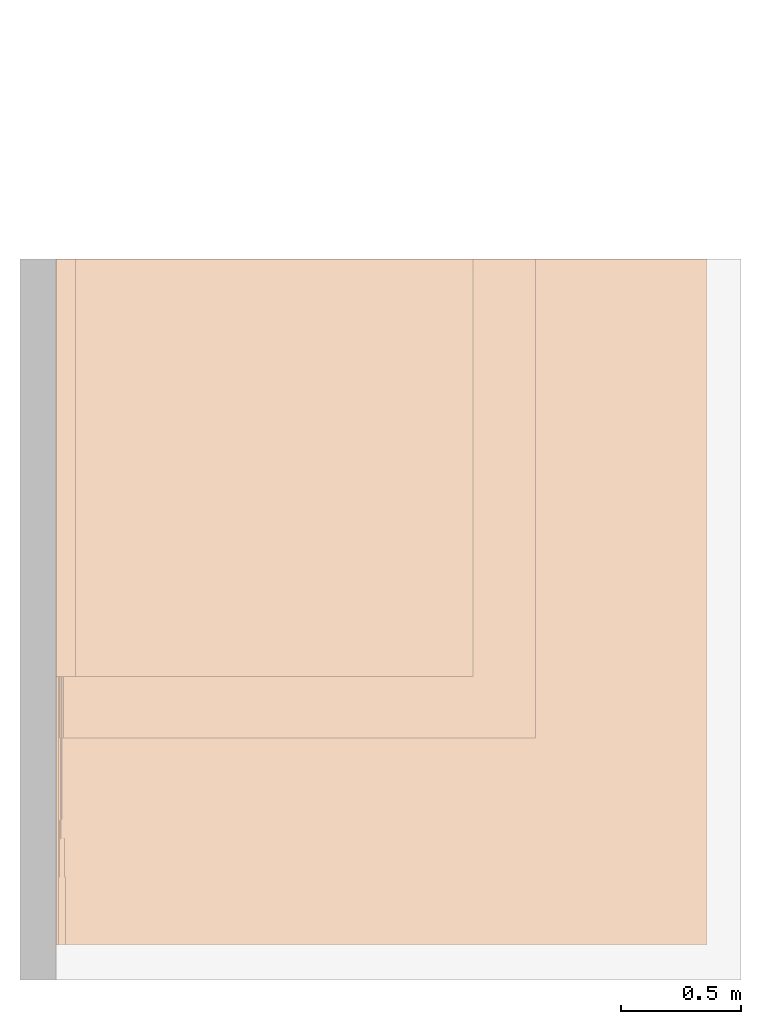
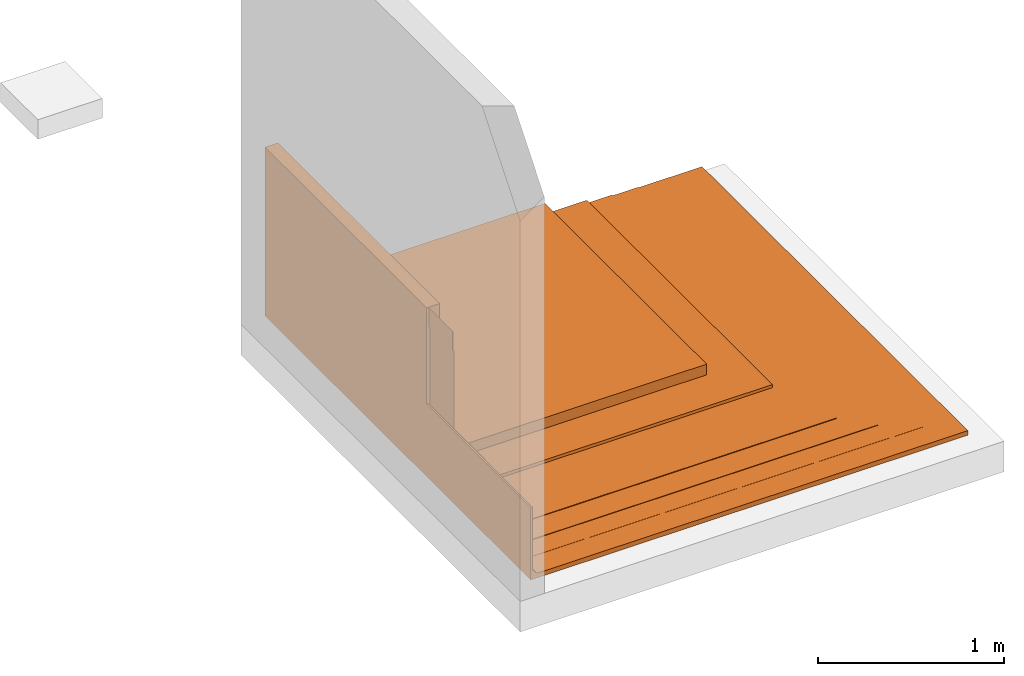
# One storey, part 2 of 2: 1 proxy.
"""IFC2X3 building model written with IfcOpenShell, lengths in metres."""

from ifc_helpers import new_model, entity, si_unit, converted_unit, derived_unit, direction, frame, frame_2d, origin, origin_2d_with_axis, place, context, subcontext, project, spatial, polyline, circle_curve, parameter, trimmed, segment, composite_curve, rectangle, outline, extrude, source, transform, mapped, material, material_list, type_object, type_shapes, element, save


model = new_model("IFC2X3")

# Units and contexts
model_context = context("Model", 3, precision=1e-05, world=origin(), true_north=direction((6.123031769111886e-17, 1.0)))
body_context = subcontext(model_context, "Body", "Model", "MODEL_VIEW")
ifc_project = project(units=[si_unit("LENGTHUNIT", "METRE"), si_unit("AREAUNIT", "SQUARE_METRE"), si_unit("VOLUMEUNIT", "CUBIC_METRE"), converted_unit("PLANEANGLEUNIT", "DEGREE", entity("IfcRatioMeasure", 0.017453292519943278), si_unit("PLANEANGLEUNIT", "RADIAN"), dimensions=[0, 0, 0, 0, 0, 0, 0]), si_unit("MASSUNIT", "GRAM", prefix="KILO"), derived_unit("MASSDENSITYUNIT", [(si_unit("MASSUNIT", "GRAM", prefix="KILO"), 1), (si_unit("LENGTHUNIT", "METRE"), -3)]), derived_unit("IONCONCENTRATIONUNIT", [(si_unit("MASSUNIT", "GRAM", prefix="KILO"), 1), (si_unit("LENGTHUNIT", "METRE"), -3)]), derived_unit("MOMENTOFINERTIAUNIT", [(si_unit("LENGTHUNIT", "METRE"), 4)]), si_unit("TIMEUNIT", "SECOND"), si_unit("FREQUENCYUNIT", "HERTZ"), si_unit("THERMODYNAMICTEMPERATUREUNIT", "DEGREE_CELSIUS"), derived_unit("THERMALTRANSMITTANCEUNIT", [(si_unit("MASSUNIT", "GRAM", prefix="KILO"), 1), (si_unit("THERMODYNAMICTEMPERATUREUNIT", "KELVIN"), -1), (si_unit("TIMEUNIT", "SECOND"), -3)]), derived_unit("THERMALCONDUCTANCEUNIT", [(si_unit("MASSUNIT", "GRAM", prefix="KILO"), 1), (si_unit("THERMODYNAMICTEMPERATUREUNIT", "KELVIN"), -1), (si_unit("TIMEUNIT", "SECOND"), -3), (si_unit("LENGTHUNIT", "METRE"), 1)]), derived_unit("VOLUMETRICFLOWRATEUNIT", [(si_unit("LENGTHUNIT", "METRE"), 3), (si_unit("TIMEUNIT", "SECOND"), -1)]), derived_unit("MASSFLOWRATEUNIT", [(si_unit("MASSUNIT", "GRAM", prefix="KILO"), 1), (si_unit("TIMEUNIT", "SECOND"), -1)]), derived_unit("ROTATIONALFREQUENCYUNIT", [(si_unit("TIMEUNIT", "SECOND"), -1)]), si_unit("ELECTRICCURRENTUNIT", "AMPERE"), si_unit("ELECTRICVOLTAGEUNIT", "VOLT"), si_unit("POWERUNIT", "WATT"), si_unit("FORCEUNIT", "NEWTON", prefix="KILO"), si_unit("ILLUMINANCEUNIT", "LUX"), si_unit("LUMINOUSFLUXUNIT", "LUMEN"), si_unit("LUMINOUSINTENSITYUNIT", "CANDELA"), derived_unit("USERDEFINED", [(si_unit("MASSUNIT", "GRAM", prefix="KILO"), -1), (si_unit("LENGTHUNIT", "METRE"), -2), (si_unit("TIMEUNIT", "SECOND"), 3), (si_unit("LUMINOUSFLUXUNIT", "LUMEN"), 1)]), derived_unit("USERDEFINED", [(si_unit("MASSUNIT", "GRAM", prefix="KILO"), 1), (si_unit("TIMEUNIT", "SECOND"), -3), (si_unit("LENGTHUNIT", "METRE"), 3), (si_unit("ELECTRICCURRENTUNIT", "AMPERE"), -2)]), derived_unit("SOUNDPOWERUNIT", [(si_unit("MASSUNIT", "GRAM", prefix="KILO"), 1), (si_unit("TIMEUNIT", "SECOND"), -3), (si_unit("LENGTHUNIT", "METRE"), 2)]), derived_unit("SOUNDPRESSUREUNIT", [(si_unit("MASSUNIT", "GRAM", prefix="KILO"), 1), (si_unit("LENGTHUNIT", "METRE"), -1), (si_unit("TIMEUNIT", "SECOND"), -2)]), derived_unit("LINEARVELOCITYUNIT", [(si_unit("LENGTHUNIT", "METRE"), 1), (si_unit("TIMEUNIT", "SECOND"), -1)]), si_unit("PRESSUREUNIT", "PASCAL"), derived_unit("USERDEFINED", [(si_unit("MASSUNIT", "GRAM", prefix="KILO"), 1), (si_unit("LENGTHUNIT", "METRE"), -2), (si_unit("TIMEUNIT", "SECOND"), -2)]), derived_unit("LINEARFORCEUNIT", [(si_unit("MASSUNIT", "GRAM", prefix="KILO"), 1), (si_unit("TIMEUNIT", "SECOND"), -2)]), derived_unit("PLANARFORCEUNIT", [(si_unit("MASSUNIT", "GRAM", prefix="KILO"), 1), (si_unit("LENGTHUNIT", "METRE"), -1), (si_unit("TIMEUNIT", "SECOND"), -2)]), derived_unit("SPECIFICHEATCAPACITYUNIT", [(si_unit("THERMODYNAMICTEMPERATUREUNIT", "KELVIN"), -1), (si_unit("LENGTHUNIT", "METRE"), 2), (si_unit("TIMEUNIT", "SECOND"), -2)]), derived_unit("HEATINGVALUEUNIT", [(si_unit("LENGTHUNIT", "METRE"), 2), (si_unit("TIMEUNIT", "SECOND"), -2)]), derived_unit("VAPORPERMEABILITYUNIT", [(si_unit("LENGTHUNIT", "METRE"), -1), (si_unit("TIMEUNIT", "SECOND"), 1)]), derived_unit("DYNAMICVISCOSITYUNIT", [(si_unit("MASSUNIT", "GRAM", prefix="KILO"), 1), (si_unit("TIMEUNIT", "SECOND"), -1), (si_unit("LENGTHUNIT", "METRE"), -1)]), derived_unit("THERMALEXPANSIONCOEFFICIENTUNIT", [(si_unit("THERMODYNAMICTEMPERATUREUNIT", "KELVIN"), -1)]), derived_unit("MODULUSOFELASTICITYUNIT", [(si_unit("MASSUNIT", "GRAM", prefix="KILO"), 1), (si_unit("LENGTHUNIT", "METRE"), -1), (si_unit("TIMEUNIT", "SECOND"), -2)]), derived_unit("ISOTHERMALMOISTURECAPACITYUNIT", [(si_unit("LENGTHUNIT", "METRE"), 3), (si_unit("MASSUNIT", "GRAM", prefix="KILO"), -1)]), derived_unit("MOISTUREDIFFUSIVITYUNIT", [(si_unit("TIMEUNIT", "SECOND"), -1), (si_unit("LENGTHUNIT", "METRE"), 2)])], contexts=[model_context])

# Site, building, storey
site_placement = place(None, origin())
site = spatial("IfcSite", under=ifc_project, at=site_placement, Name="Default", CompositionType="ELEMENT")
building_placement = place(site_placement, origin())
building = spatial("IfcBuilding", under=site, at=building_placement, CompositionType="ELEMENT")
storey_placement = place(building_placement, frame((0.0, 0.0, -0.0025237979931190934)))
storey = spatial("IfcBuildingStorey", under=building, at=storey_placement, Name="ARQ Térreo", CompositionType="ELEMENT", Elevation=-0.0025237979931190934)

# Proxy
ifc_material_1 = material(Name="#argamassa")
ifc_material_2 = material(Name="#selante")
ifc_material_3 = material(Name="#proteção mecânica")
ifc_material_4 = material(Name="#camada amortecedora")
ifc_material_5 = material(Name="#Viapoxi Adesivo")
ifc_material_6 = material(Name="#Tela Plástica")
ifc_material_7 = material(Name="# Torodin 4mm - TIPO III - Classe A")
ifc_material_8 = material(Name="#Primer Adeflex")
ifc_material_9 = material(Name="# Torodin 3mm - TIPO III - Classe A")
ifc_material_list = material_list([ifc_material_1, ifc_material_2, ifc_material_3, ifc_material_4, ifc_material_5, ifc_material_6, ifc_material_7, ifc_material_8, ifc_material_9])
building_element_proxy_type = type_object("IfcBuildingElementProxyType", Name="IMPER:IMPER", PredefinedType="NOTDEFINED", material=ifc_material_list)
shared_shape = source(origin(), body_context, "Body", "SweptSolid", [
    extrude(rectangle(XDim=2.854111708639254, YDim=0.010000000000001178, at=frame_2d((0.0, -3.382710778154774e-17), x_axis=(1.0, 0.0))), frame((-0.3469704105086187, -1.2811858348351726, -0.0025237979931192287), z_axis=(0.0, 0.0, 1.0), x_axis=(0.0, -1.0, 0.0)), (0.0, 0.0, 1.0), 0.4752746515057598),
    extrude(rectangle(XDim=1.7372680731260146, YDim=0.020000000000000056, at=origin_2d_with_axis()), frame((-0.2619704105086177, -0.7227640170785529, 0.10730187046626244), z_axis=(0.0, 0.0, 1.0), x_axis=(0.0, -1.0, 0.0)), (0.0, 0.0, 1.0), 0.019999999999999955),
    extrude(outline(composite_curve([segment(polyline([(0.21586995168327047, -1.5093352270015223), (0.28586995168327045, -1.5093352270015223)]), True, "CONTINUOUS"), segment(polyline([(0.28586995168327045, -1.5093352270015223), (0.2858699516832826, 0.2018647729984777)]), True, "CONTINUOUS"), segment(polyline([(0.2858699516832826, 0.2018647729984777), (0.18082209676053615, 0.2018647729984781)]), True, "CONTINUOUS"), segment(trimmed(circle_curve(frame_2d((0.18082209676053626, 0.21161777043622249), x_axis=(0.0, -1.0)), 0.009752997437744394), [parameter(300.520300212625)], [parameter(0.0)], True, "PARAMETER"), False, "CONTINUOUS"), segment(polyline([(0.1724203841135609, 0.20666477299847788), (0.04569562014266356, 0.20666477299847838)]), True, "CONTINUOUS"), segment(trimmed(circle_curve(frame_2d((0.04569562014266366, 0.21641777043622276), x_axis=(0.0, -1.0)), 0.009752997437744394), [parameter(300.5203002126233)], [parameter(0.0)], True, "PARAMETER"), False, "CONTINUOUS"), segment(polyline([(0.03729390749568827, 0.21146477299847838), (-0.1123558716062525, 0.21146477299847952)]), True, "CONTINUOUS"), segment(polyline([(-0.1123558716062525, 0.21146477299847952), (-0.11235587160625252, 0.2084365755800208)]), True, "CONTINUOUS"), segment(polyline([(-0.11235587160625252, 0.2084365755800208), (-0.12153952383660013, 0.20843657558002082)]), True, "CONTINUOUS"), segment(polyline([(-0.12153952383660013, 0.20843657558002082), (-0.12957903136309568, 0.21647608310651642)]), True, "CONTINUOUS"), segment(polyline([(-0.12957903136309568, 0.21647608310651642), (-0.12957903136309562, 0.22647608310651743)]), True, "CONTINUOUS"), segment(polyline([(-0.12957903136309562, 0.22647608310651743), (-0.760956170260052, 0.22647608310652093)]), True, "CONTINUOUS"), segment(polyline([(-0.760956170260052, 0.22647608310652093), (-0.7609561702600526, 0.1464760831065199)]), True, "CONTINUOUS"), segment(polyline([(-0.7609561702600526, 0.1464760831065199), (0.2158699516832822, 0.14647608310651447)]), True, "CONTINUOUS"), segment(polyline([(0.2158699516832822, 0.14647608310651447), (0.23586995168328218, 0.1464760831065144)]), True, "CONTINUOUS"), segment(polyline([(0.23586995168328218, 0.1464760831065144), (0.23586995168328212, 0.12647608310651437)]), True, "CONTINUOUS"), segment(polyline([(0.23586995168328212, 0.12647608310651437), (0.21586995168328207, 0.12647608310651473)]), True, "CONTINUOUS"), segment(polyline([(0.21586995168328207, 0.12647608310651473), (0.21586995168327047, -1.5093352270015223)]), True, "CONTINUOUS")], self_intersect=False)), frame((-0.12549432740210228, -1.5913980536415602, 0.34317182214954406), z_axis=(0.0, 1.0, 0.0), x_axis=(0.0, 0.0, -1.0)), (0.0, 0.0, 1.0), 1.7372680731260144),
    extrude(outline(composite_curve([segment(polyline([(-0.011733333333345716, -1.2609592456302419), (0.00826666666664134, -1.2609592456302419)]), True, "CONTINUOUS"), segment(polyline([(0.00826666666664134, -1.2609592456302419), (0.008266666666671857, 0.5588520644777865)]), True, "CONTINUOUS"), segment(polyline([(0.008266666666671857, 0.5588520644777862), (0.003466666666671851, 0.5588520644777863)]), True, "CONTINUOUS"), segment(polyline([(0.003466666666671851, 0.5588520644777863), (0.0034666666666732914, 0.6939632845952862)]), True, "CONTINUOUS"), segment(trimmed(circle_curve(frame_2d((-0.011907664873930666, 0.6948520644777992), x_axis=(0.0, -1.0)), 0.015399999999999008), [parameter(86.69145144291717)], [parameter(179.3513847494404)], True, "PARAMETER"), True, "CONTINUOUS"), segment(polyline([(-0.011733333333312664, 0.7102510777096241), (-0.011733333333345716, -1.2609592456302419)]), True, "CONTINUOUS")], self_intersect=False)), frame((0.38288165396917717, -1.8470207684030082, 0.04556853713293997), z_axis=(0.0, 1.0, 0.0), x_axis=(0.0, 0.0, -1.0)), (0.0, 0.0, 1.0), 1.9928907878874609),
    extrude(outline(polyline([(-0.0008824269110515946, 5.2421376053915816e-05), (0.006204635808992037, 5.24213760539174e-05), (0.009908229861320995, 0.003756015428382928), (-0.0014613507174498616, 0.0037560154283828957), (-0.007955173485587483, -0.002737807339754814), (-0.005813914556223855, -0.004879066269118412), (-0.0008824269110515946, 5.2421376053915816e-05)])), frame((-0.33762013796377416, -2.191126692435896, 0.4630887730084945), z_axis=(0.0, 1.0, 0.0), x_axis=(-0.7071067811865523, 0.0, 0.7071067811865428)), (0.0, 0.0, 1.0), 2.3369967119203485),
    extrude(outline(composite_curve([segment(polyline([(0.00721894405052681, -0.3428229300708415), (0.00721894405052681, -0.44828655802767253)]), True, "CONTINUOUS"), segment(polyline([(0.00721894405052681, -0.44828655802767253), (0.008018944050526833, -0.44828655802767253)]), True, "CONTINUOUS"), segment(polyline([(0.008018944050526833, -0.44828655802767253), (0.008018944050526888, -0.3428229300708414)]), True, "CONTINUOUS"), segment(trimmed(circle_curve(frame_2d((-0.007534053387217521, -0.3428229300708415), x_axis=(1.0, 0.0)), 0.015552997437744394), [parameter(3.5622212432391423e-13)], [parameter(46.2607256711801)], True, "PARAMETER"), True, "CONTINUOUS"), segment(polyline([(0.003218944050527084, -0.33158599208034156), (0.0032189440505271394, -0.20769645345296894)]), True, "CONTINUOUS"), segment(trimmed(circle_curve(frame_2d((-0.01233405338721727, -0.2076964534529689), x_axis=(1.0, 0.0)), 0.015552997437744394), [parameter(359.9999999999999)], [parameter(46.26072567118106)], True, "PARAMETER"), True, "CONTINUOUS"), segment(polyline([(-0.001581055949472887, -0.19645951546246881), (-0.0015810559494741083, 0.4635404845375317)]), True, "CONTINUOUS"), segment(trimmed(circle_curve(frame_2d((-0.01951188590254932, 0.45265933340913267), x_axis=(1.0, 0.0)), 0.02097412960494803), [parameter(31.251065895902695)], [parameter(56.89660713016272)], True, "PARAMETER"), True, "CONTINUOUS"), segment(polyline([(-0.008056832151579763, 0.4702290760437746), (-0.00805683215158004, 0.5937614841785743)]), True, "CONTINUOUS"), segment(polyline([(-0.00805683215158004, 0.5937614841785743), (-0.008856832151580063, 0.5937614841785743)]), True, "CONTINUOUS"), segment(polyline([(-0.008856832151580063, 0.5937614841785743), (-0.008856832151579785, 0.46979016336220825)]), True, "CONTINUOUS"), segment(trimmed(circle_curve(frame_2d((-0.01951188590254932, 0.45265933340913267), x_axis=(1.0, 0.0)), 0.02017412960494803), [parameter(31.880834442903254)], [parameter(58.11916555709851)], True, "PARAMETER"), False, "CONTINUOUS"), segment(polyline([(-0.0023810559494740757, 0.46331438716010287), (-0.0023810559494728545, -0.19680660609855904)]), True, "CONTINUOUS"), segment(trimmed(circle_curve(frame_2d((-0.01233405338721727, -0.2076964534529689), x_axis=(1.0, 0.0)), 0.014752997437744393), [parameter(359.9999999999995)], [parameter(47.573614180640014)], True, "PARAMETER"), False, "CONTINUOUS"), segment(polyline([(0.0024189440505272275, -0.207696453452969), (0.002418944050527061, -0.33193308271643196)]), True, "CONTINUOUS"), segment(trimmed(circle_curve(frame_2d((-0.007534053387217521, -0.3428229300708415), x_axis=(1.0, 0.0)), 0.014752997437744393), [parameter(0.0)], [parameter(47.5736141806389)], True, "PARAMETER"), False, "CONTINUOUS")], self_intersect=False)), frame((-0.32957804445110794, -1.8470207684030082, 0.5051726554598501), z_axis=(0.0, -1.0, 0.0), x_axis=(1.0, 0.0, 0.0)), (0.0, 0.0, -1.0), 1.9928907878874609),
    extrude(outline(composite_curve([segment(trimmed(circle_curve(frame_2d((0.0022674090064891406, 0.139487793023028), x_axis=(1.0, 0.0)), 0.01939999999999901), [parameter(87.05229129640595)], [parameter(178.0434486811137)], True, "PARAMETER"), True, "CONTINUOUS"), segment(polyline([(-0.017121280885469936, 0.14015014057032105), (-0.01712128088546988, 0.03461426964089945)]), True, "CONTINUOUS"), segment(trimmed(circle_curve(frame_2d((-0.022874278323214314, 0.03461426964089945), x_axis=(1.0, 0.0)), 0.005752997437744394), [parameter(305.2941953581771)], [parameter(0.0)], True, "PARAMETER"), False, "CONTINUOUS"), segment(trimmed(circle_curve(frame_2d((-0.017750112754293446, 0.026156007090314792), x_axis=(1.0, 0.0)), 0.004171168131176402), [parameter(115.56840704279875)], [parameter(180.00000000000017)], True, "PARAMETER"), True, "CONTINUOUS"), segment(polyline([(-0.02192128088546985, 0.026156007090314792), (-0.021921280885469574, -0.10051220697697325)]), True, "CONTINUOUS"), segment(trimmed(circle_curve(frame_2d((-0.027674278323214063, -0.10051220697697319), x_axis=(1.0, 0.0)), 0.005752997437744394), [parameter(305.29419535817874)], [parameter(3.5622212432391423e-13)], True, "PARAMETER"), False, "CONTINUOUS"), segment(trimmed(circle_curve(frame_2d((-0.022550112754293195, -0.10897046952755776), x_axis=(1.0, 0.0)), 0.004171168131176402), [parameter(115.56840704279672)], [parameter(180.00000000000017)], True, "PARAMETER"), True, "CONTINUOUS"), segment(polyline([(-0.026721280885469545, -0.10897046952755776), (-0.026721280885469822, -0.2695378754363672)]), True, "CONTINUOUS"), segment(polyline([(-0.026721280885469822, -0.2695378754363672), (-0.022721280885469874, -0.2655378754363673)]), True, "CONTINUOUS"), segment(polyline([(-0.022721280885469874, -0.2655378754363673), (-0.022721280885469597, -0.1089139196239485)]), True, "CONTINUOUS"), segment(trimmed(circle_curve(frame_2d((-0.027674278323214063, -0.10051220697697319), x_axis=(1.0, 0.0)), 0.009752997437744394), [parameter(300.52030021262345)], [parameter(359.9999999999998)], True, "PARAMETER"), True, "CONTINUOUS"), segment(polyline([(-0.01792128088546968, -0.10051220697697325), (-0.017921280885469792, 0.026212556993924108)]), True, "CONTINUOUS"), segment(trimmed(circle_curve(frame_2d((-0.022874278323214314, 0.03461426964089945), x_axis=(1.0, 0.0)), 0.009752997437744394), [parameter(300.5203002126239)], [parameter(359.9999999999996)], True, "PARAMETER"), True, "CONTINUOUS"), segment(polyline([(-0.013121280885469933, 0.034614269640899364), (-0.013121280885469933, 0.14007789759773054)]), True, "CONTINUOUS"), segment(trimmed(circle_curve(frame_2d((0.0022674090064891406, 0.139487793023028), x_axis=(1.0, 0.0)), 0.015399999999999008), [parameter(86.69145144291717)], [parameter(177.80397525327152)], True, "PARAMETER"), False, "CONTINUOUS"), segment(polyline([(0.0031561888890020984, 0.15486212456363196), (0.13826740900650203, 0.15486212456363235)]), True, "CONTINUOUS"), segment(polyline([(0.13826740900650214, 0.15486212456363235), (0.138267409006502, 0.15886212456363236)]), True, "CONTINUOUS"), segment(polyline([(0.13826740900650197, 0.15886212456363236), (0.003265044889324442, 0.15886212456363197)]), True, "CONTINUOUS")], self_intersect=False)), frame((-0.31423781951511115, -2.184726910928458, 0.19696399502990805), z_axis=(0.0, 1.0, 0.0), x_axis=(1.0, 0.0, 0.0)), (0.0, 0.0, 1.0), 2.330596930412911),
    extrude(outline(composite_curve([segment(polyline([(-1.056000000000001, -0.006000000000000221), (1.6140000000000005, -0.0060000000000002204)]), True, "CONTINUOUS"), segment(polyline([(1.6140000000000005, -0.0060000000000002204), (1.6140000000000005, 0.023999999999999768)]), True, "CONTINUOUS"), segment(polyline([(1.614, 0.023999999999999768), (-1.0860000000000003, 0.023999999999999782)]), True, "CONTINUOUS"), segment(polyline([(-1.0860000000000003, 0.02399999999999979), (-1.0860000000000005, -0.035999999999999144)]), True, "CONTINUOUS"), segment(trimmed(circle_curve(frame_2d((-1.056000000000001, -0.03599999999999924), x_axis=(1.0, 0.0)), 0.029999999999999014), [parameter(90.0000000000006)], [parameter(179.99999999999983)], True, "PARAMETER"), False, "CONTINUOUS")], self_intersect=False)), frame((0.7440295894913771, -2.7082416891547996, 0.02147620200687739), z_axis=(0.0, 1.0, 0.0), x_axis=(1.0, 0.0, 0.0)), (0.0, 0.0, 1.0), 2.8541117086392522),
    extrude(outline(composite_curve([segment(polyline([(-0.6330418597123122, -0.08822236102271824), (-0.6330418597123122, 0.32161678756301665)]), True, "CONTINUOUS"), segment(polyline([(-0.6330418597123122, 0.32161678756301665), (-0.6340531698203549, 0.32161678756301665)]), True, "CONTINUOUS"), segment(polyline([(-0.6340531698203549, 0.32161678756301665), (-0.6340531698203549, -0.08741251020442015)]), True, "CONTINUOUS"), segment(trimmed(circle_curve(frame_2d((-0.604053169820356, -0.08741251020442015), x_axis=(1.0, 0.0)), 0.029999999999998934), [parameter(179.99999999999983)], [parameter(269.9999999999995)], True, "PARAMETER"), True, "CONTINUOUS"), segment(polyline([(-0.6040531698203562, -0.11741251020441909), (1.8717581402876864, -0.11741251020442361)]), True, "CONTINUOUS"), segment(polyline([(1.8717581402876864, -0.11741251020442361), (1.8717581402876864, -0.11638684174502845)]), True, "CONTINUOUS"), segment(polyline([(1.8717581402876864, -0.11638684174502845), (-0.6052730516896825, -0.11638684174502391)]), True, "CONTINUOUS"), segment(trimmed(circle_curve(frame_2d((-0.6040531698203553, -0.08741251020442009), x_axis=(1.0, 0.0)), 0.028999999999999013), [parameter(181.60024369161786)], [parameter(267.5891478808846)], True, "PARAMETER"), False, "CONTINUOUS")], self_intersect=False)), frame((0.2920827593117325, -2.558785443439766, 0.1448887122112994), z_axis=(0.0, -1.0, 0.0), x_axis=(1.0, 0.0, 0.0)), (0.0, 0.0, -1.0), 2.7046554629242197),
    extrude(outline(composite_curve([segment(polyline([(-0.30913416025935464, 0.038691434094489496), (-0.3091341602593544, 0.16535964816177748)]), True, "CONTINUOUS"), segment(polyline([(-0.3091341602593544, 0.16535964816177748), (-0.3131341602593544, 0.16935964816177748)]), True, "CONTINUOUS"), segment(polyline([(-0.3131341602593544, 0.16935964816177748), (-0.3131341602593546, 0.038691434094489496)]), True, "CONTINUOUS"), segment(trimmed(circle_curve(frame_2d((-0.3041629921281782, 0.038691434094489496), x_axis=(1.0, 0.0)), 0.008971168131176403), [parameter(179.99999999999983)], [parameter(237.23916923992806)], True, "PARAMETER"), True, "CONTINUOUS"), segment(trimmed(circle_curve(frame_2d((-0.3092871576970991, 0.03023317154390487), x_axis=(1.0, 0.0)), 0.0009529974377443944), [parameter(0.0)], [parameter(73.56892721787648)], True, "PARAMETER"), False, "CONTINUOUS"), segment(polyline([(-0.3083341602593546, 0.03023317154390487), (-0.30833416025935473, -0.07538013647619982)]), True, "CONTINUOUS"), segment(trimmed(circle_curve(frame_2d((-0.2841454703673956, -0.07464035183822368), x_axis=(1.0, 0.0)), 0.024199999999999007), [parameter(181.75178272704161)], [parameter(267.36082466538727)], True, "PARAMETER"), True, "CONTINUOUS"), segment(polyline([(-0.285259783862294, -0.09881468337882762), (1.8268263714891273, -0.09881468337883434)]), True, "CONTINUOUS"), segment(polyline([(1.8268263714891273, -0.09881468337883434), (1.8268263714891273, -0.09481468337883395)]), True, "CONTINUOUS"), segment(polyline([(1.8268263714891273, -0.09481468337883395), (-0.28312745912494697, -0.09481468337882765)]), True, "CONTINUOUS"), segment(trimmed(circle_curve(frame_2d((-0.2841454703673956, -0.07464035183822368), x_axis=(1.0, 0.0)), 0.020199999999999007), [parameter(181.91741264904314)], [parameter(272.8887359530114)], True, "PARAMETER"), False, "CONTINUOUS"), segment(polyline([(-0.3043341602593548, -0.07531622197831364), (-0.3043341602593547, 0.030233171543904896)]), True, "CONTINUOUS"), segment(trimmed(circle_curve(frame_2d((-0.3092871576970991, 0.03023317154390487), x_axis=(1.0, 0.0)), 0.004952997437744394), [parameter(4.0711099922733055e-13)], [parameter(53.98237944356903)], True, "PARAMETER"), True, "CONTINUOUS"), segment(trimmed(circle_curve(frame_2d((-0.3041629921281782, 0.038691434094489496), x_axis=(1.0, 0.0)), 0.004971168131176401), [parameter(180.00000000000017)], [parameter(243.58355014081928)], True, "PARAMETER"), False, "CONTINUOUS")], self_intersect=False)), frame((-0.027824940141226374, -2.265201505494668, 0.1321165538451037), z_axis=(0.0, -1.0, 0.0), x_axis=(1.0, 0.0, 0.0)), (0.0, 0.0, -1.0), 2.411071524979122),
    extrude(outline(composite_curve([segment(polyline([(-0.580900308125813, -0.013713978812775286), (-0.580900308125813, 0.09307849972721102)]), True, "CONTINUOUS"), segment(polyline([(-0.580900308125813, 0.09307849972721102), (-0.583900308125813, 0.096078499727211)]), True, "CONTINUOUS"), segment(polyline([(-0.583900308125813, 0.096078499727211), (-0.5839003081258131, -0.013757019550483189)]), True, "CONTINUOUS"), segment(trimmed(circle_curve(frame_2d((-0.5549116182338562, -0.012947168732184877), x_axis=(1.0, 0.0)), 0.028999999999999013), [parameter(181.60024369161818)], [parameter(267.5891478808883)], True, "PARAMETER"), True, "CONTINUOUS"), segment(polyline([(-0.5561315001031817, -0.041921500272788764), (1.720899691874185, -0.0419215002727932)]), True, "CONTINUOUS"), segment(polyline([(1.720899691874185, -0.0419215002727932), (1.720899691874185, -0.0389215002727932)]), True, "CONTINUOUS"), segment(polyline([(1.720899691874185, -0.0389215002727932), (-0.5560666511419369, -0.03892150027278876)]), True, "CONTINUOUS"), segment(trimmed(circle_curve(frame_2d((-0.554911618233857, -0.012947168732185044), x_axis=(1.0, 0.0)), 0.025999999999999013), [parameter(181.69005204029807)], [parameter(267.45383470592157)], True, "PARAMETER"), False, "CONTINUOUS")], self_intersect=False)), frame((0.24294120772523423, -2.425100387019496, 0.07042337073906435), z_axis=(0.0, -1.0, 0.0), x_axis=(1.0, 0.0, 0.0)), (0.0, 0.0, -1.0), 2.5709704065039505),
])
type_shapes(building_element_proxy_type, [shared_shape])
proxy_placement = place(storey_placement, frame((0.0, 0.0, 0.0025237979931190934)))
element("IfcBuildingElementProxy", 1, at=proxy_placement, inside=storey, type_object=building_element_proxy_type, material=ifc_material_list, Name="IMPER:IMPER:IMPER : IMPER:IMPER", ObjectType="IMPER:IMPER:IMPER : IMPER:IMPER", context=body_context, shape_type="MappedRepresentation", body=[
    mapped(shared_shape, transform((0.0, 0.0, 0.0), scale=1.0)),
])

save(model, "model.ifc")
